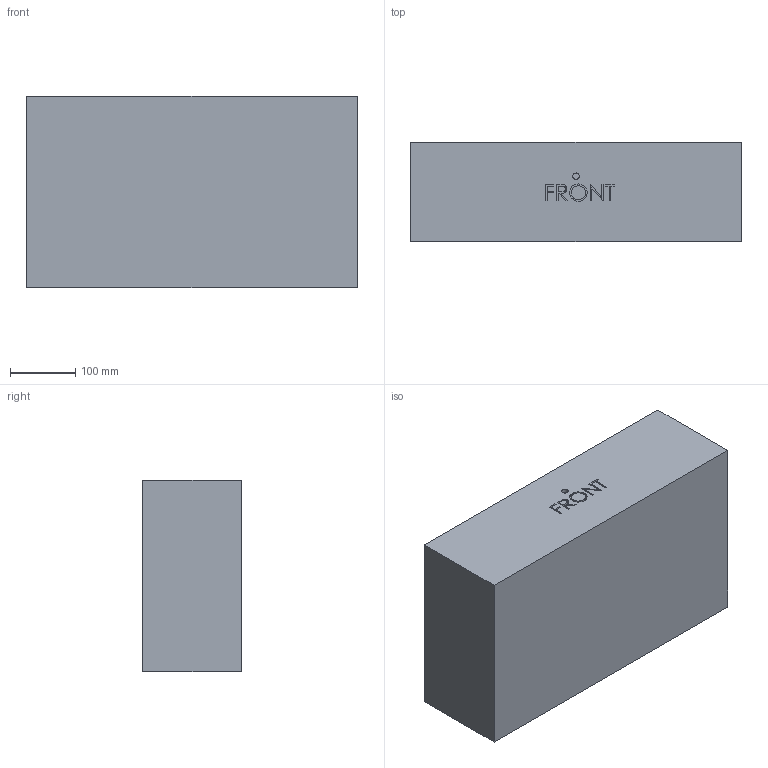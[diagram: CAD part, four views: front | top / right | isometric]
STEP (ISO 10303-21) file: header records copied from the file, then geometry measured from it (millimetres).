
FILE_DESCRIPTION (( 'STEP AP203' ), '1' );
FILE_NAME ('bottom inside type 6600.STEP', '2023-03-14T10:38:27', ( '' ), ( '' ), 'SwSTEP 2.0', 'SolidWorks 2022', '' );
FILE_SCHEMA (( 'CONFIG_CONTROL_DESIGN' ));
Length unit declared in the file: millimetre
Products named in the file (1): bottom inside type 6600
Bounding box: 508 x 152 x 295 mm (x, y, z)
Volume: 2264431.9 mm3; surface area: 854976.6 mm2
Topology: 1 solids, 4 shells, 286 faces, 742 edges, 470 vertices
Faces by surface type: plane 133, cylinder 70, bspline 61, cone 22
Entity records: 11635 total; most frequent: CARTESIAN_POINT 5268, ORIENTED_EDGE 1480, DIRECTION 1104, EDGE_CURVE 740, VERTEX_POINT 470, LINE 412, VECTOR 412, AXIS2_PLACEMENT_3D 346
